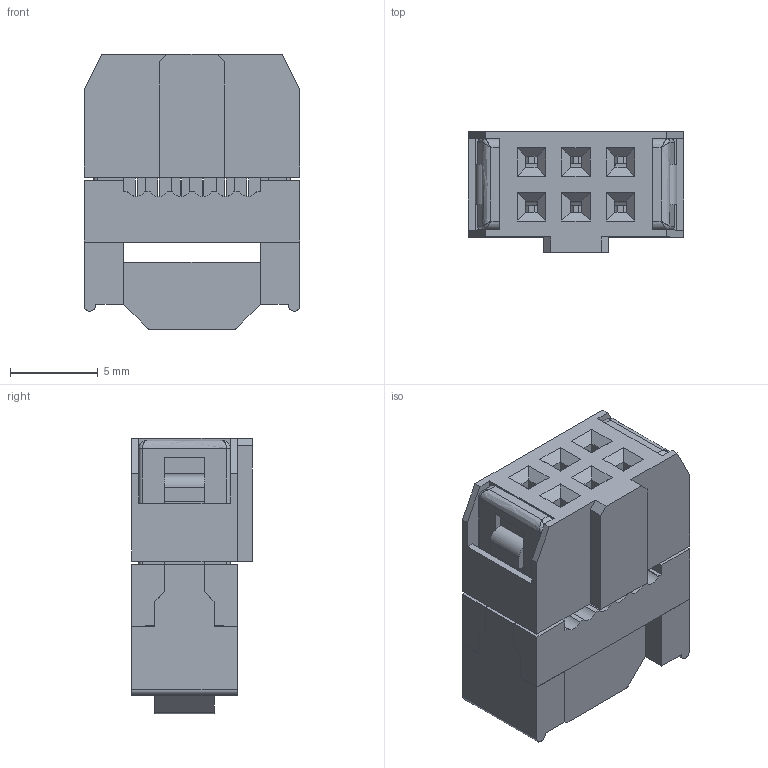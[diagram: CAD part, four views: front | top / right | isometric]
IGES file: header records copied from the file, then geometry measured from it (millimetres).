
Global section: file name: Filename.iges; native system: Open CASCADE 7.3; preprocessor: Open CASCADE IGES processor 7.3; date: 20201209.080523; units: millimetre
Bounding box: 12.3 x 6.86 x 15.7 mm (x, y, z)
Surface area: 1812.9 mm2 (no closed solid volume)
Topology: 0 solids, 0 shells, 545 faces, 3078 edges, 3074 vertices
Faces by surface type: plane 408, revolution 122, extrusion 11, bspline 4
